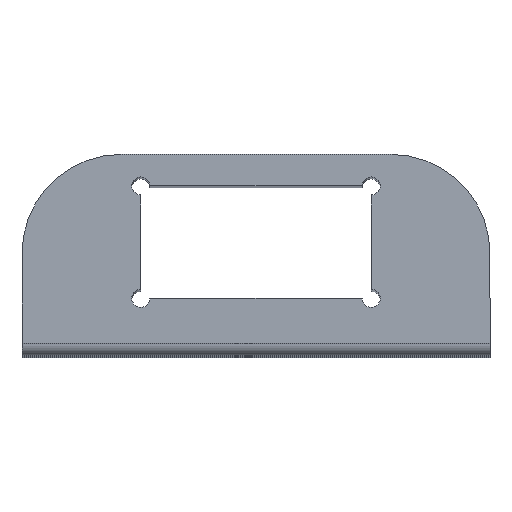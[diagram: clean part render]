
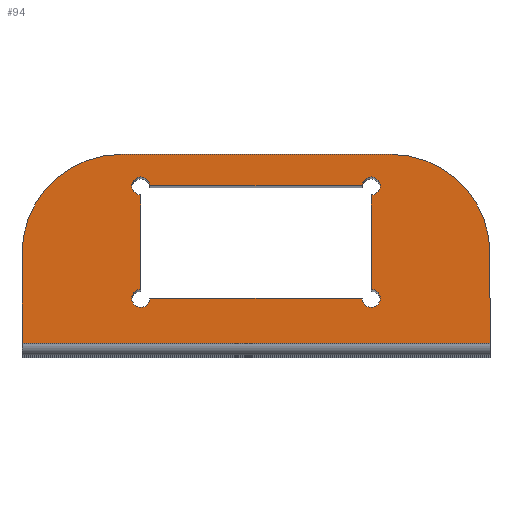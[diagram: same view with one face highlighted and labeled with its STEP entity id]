
A CAD part, top view. The second image highlights one B-rep face of the part: STEP entity #94.
In plain terms, the highlighted planar face has unit normal (0, 0, 1).
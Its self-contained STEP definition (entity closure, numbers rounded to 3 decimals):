
#94=ADVANCED_FACE('',(#500,#502),#504,.F.);
#500=FACE_BOUND('',#501,.T.);
#501=EDGE_LOOP('',(#834,#835,#836,#837,#838,#839));
#502=FACE_BOUND('',#503,.T.);
#503=EDGE_LOOP('',(#840,#841,#842,#843,#844,#845,#846,#847));
#504=PLANE('',#505);
#505=AXIS2_PLACEMENT_3D('',#506,#507,#508);
#506=CARTESIAN_POINT('',(-52.,45.,266.));
#507=DIRECTION('',(0.,0.,-1.));
#508=DIRECTION('',(1.,0.,0.));
#834=ORIENTED_EDGE('',*,*,#1058,.F.);
#835=ORIENTED_EDGE('',*,*,#1059,.F.);
#836=ORIENTED_EDGE('',*,*,#1060,.F.);
#837=ORIENTED_EDGE('',*,*,#1061,.F.);
#838=ORIENTED_EDGE('',*,*,#1062,.F.);
#839=ORIENTED_EDGE('',*,*,#1063,.F.);
#840=ORIENTED_EDGE('',*,*,#1064,.T.);
#841=ORIENTED_EDGE('',*,*,#1045,.F.);
#842=ORIENTED_EDGE('',*,*,#1065,.T.);
#843=ORIENTED_EDGE('',*,*,#1049,.F.);
#844=ORIENTED_EDGE('',*,*,#1066,.T.);
#845=ORIENTED_EDGE('',*,*,#1051,.F.);
#846=ORIENTED_EDGE('',*,*,#1067,.T.);
#847=ORIENTED_EDGE('',*,*,#1055,.F.);
#1045=EDGE_CURVE('',#1159,#1154,#1161,.F.);
#1049=EDGE_CURVE('',#1167,#1162,#1169,.F.);
#1051=EDGE_CURVE('',#1171,#1173,#1174,.T.);
#1055=EDGE_CURVE('',#1179,#1181,#1182,.F.);
#1058=EDGE_CURVE('',#1186,#1187,#1188,.F.);
#1059=EDGE_CURVE('',#1189,#1186,#1190,.F.);
#1060=EDGE_CURVE('',#1191,#1189,#1192,.F.);
#1061=EDGE_CURVE('',#1193,#1191,#1194,.F.);
#1062=EDGE_CURVE('',#1195,#1193,#1196,.F.);
#1063=EDGE_CURVE('',#1187,#1195,#1197,.F.);
#1064=EDGE_CURVE('',#1179,#1154,#1198,.F.);
#1065=EDGE_CURVE('',#1159,#1162,#1199,.F.);
#1066=EDGE_CURVE('',#1167,#1173,#1200,.F.);
#1067=EDGE_CURVE('',#1171,#1181,#1201,.F.);
#1154=VERTEX_POINT('',#1344);
#1159=VERTEX_POINT('',#1353);
#1161=LINE('',#1357,#1358);
#1162=VERTEX_POINT('',#1360);
#1167=VERTEX_POINT('',#1369);
#1169=LINE('',#1373,#1374);
#1171=VERTEX_POINT('',#1377);
#1173=VERTEX_POINT('',#1381);
#1174=LINE('',#1382,#1383);
#1179=VERTEX_POINT('',#1393);
#1181=VERTEX_POINT('',#1397);
#1182=LINE('',#1398,#1399);
#1186=VERTEX_POINT('',#1408);
#1187=VERTEX_POINT('',#1409);
#1188=CIRCLE('',#1410,11.);
#1189=VERTEX_POINT('',#1414);
#1190=LINE('',#1415,#1416);
#1191=VERTEX_POINT('',#1418);
#1192=LINE('',#1419,#1420);
#1193=VERTEX_POINT('',#1422);
#1194=LINE('',#1423,#1424);
#1195=VERTEX_POINT('',#1426);
#1196=CIRCLE('',#1427,11.);
#1197=LINE('',#1431,#1432);
#1198=CIRCLE('',#1434,1.);
#1199=CIRCLE('',#1438,1.);
#1200=CIRCLE('',#1442,1.);
#1201=CIRCLE('',#1446,1.);
#1344=CARTESIAN_POINT('',(-37.8,12.5,266.));
#1353=CARTESIAN_POINT('',(-14.2,12.5,266.));
#1357=CARTESIAN_POINT('',(-37.8,12.5,266.));
#1358=VECTOR('',#1359,1.);
#1359=DIRECTION('',(1.,0.,0.));
#1360=CARTESIAN_POINT('',(-13.2,11.5,266.));
#1369=CARTESIAN_POINT('',(-13.2,1.,266.));
#1373=CARTESIAN_POINT('',(-13.2,11.5,266.));
#1374=VECTOR('',#1375,1.);
#1375=DIRECTION('',(0.,-1.,0.));
#1377=CARTESIAN_POINT('',(-37.8,0.,266.));
#1381=CARTESIAN_POINT('',(-14.2,0.,266.));
#1382=CARTESIAN_POINT('',(-37.8,0.,266.));
#1383=VECTOR('',#1384,1.);
#1384=DIRECTION('',(1.,0.,0.));
#1393=CARTESIAN_POINT('',(-38.8,11.5,266.));
#1397=CARTESIAN_POINT('',(-38.8,1.,266.));
#1398=CARTESIAN_POINT('',(-38.8,1.,266.));
#1399=VECTOR('',#1400,1.);
#1400=DIRECTION('',(0.,1.,0.));
#1408=CARTESIAN_POINT('',(-52.,5.,266.));
#1409=CARTESIAN_POINT('',(-41.,16.,266.));
#1410=AXIS2_PLACEMENT_3D('',#1411,#1412,#1413);
#1411=CARTESIAN_POINT('',(-41.,5.,266.));
#1412=DIRECTION('',(0.,-0.,1.));
#1413=DIRECTION('',(0.,1.,0.));
#1414=CARTESIAN_POINT('',(-52.,-5.,266.));
#1415=CARTESIAN_POINT('',(-52.,5.,266.));
#1416=VECTOR('',#1417,1.);
#1417=DIRECTION('',(0.,-1.,0.));
#1418=CARTESIAN_POINT('',(0.,-5.,266.));
#1419=CARTESIAN_POINT('',(-52.,-5.,266.));
#1420=VECTOR('',#1421,1.);
#1421=DIRECTION('',(1.,0.,0.));
#1422=CARTESIAN_POINT('',(0.,5.,266.));
#1423=CARTESIAN_POINT('',(0.,-5.,266.));
#1424=VECTOR('',#1425,1.);
#1425=DIRECTION('',(0.,1.,0.));
#1426=CARTESIAN_POINT('',(-11.,16.,266.));
#1427=AXIS2_PLACEMENT_3D('',#1428,#1429,#1430);
#1428=CARTESIAN_POINT('',(-11.,5.,266.));
#1429=DIRECTION('',(0.,0.,1.));
#1430=DIRECTION('',(1.,0.,0.));
#1431=CARTESIAN_POINT('',(-11.,16.,266.));
#1432=VECTOR('',#1433,1.);
#1433=DIRECTION('',(-1.,0.,0.));
#1434=AXIS2_PLACEMENT_3D('',#1435,#1436,#1437);
#1435=CARTESIAN_POINT('',(-38.8,12.5,266.));
#1436=DIRECTION('',(0.,0.,1.));
#1437=DIRECTION('',(1.,0.,0.));
#1438=AXIS2_PLACEMENT_3D('',#1439,#1440,#1441);
#1439=CARTESIAN_POINT('',(-13.2,12.5,266.));
#1440=DIRECTION('',(0.,0.,1.));
#1441=DIRECTION('',(0.,-1.,0.));
#1442=AXIS2_PLACEMENT_3D('',#1443,#1444,#1445);
#1443=CARTESIAN_POINT('',(-13.2,0.,266.));
#1444=DIRECTION('',(0.,0.,1.));
#1445=DIRECTION('',(-1.,0.,0.));
#1446=AXIS2_PLACEMENT_3D('',#1447,#1448,#1449);
#1447=CARTESIAN_POINT('',(-38.8,0.,266.));
#1448=DIRECTION('',(0.,0.,1.));
#1449=DIRECTION('',(0.,1.,0.));
